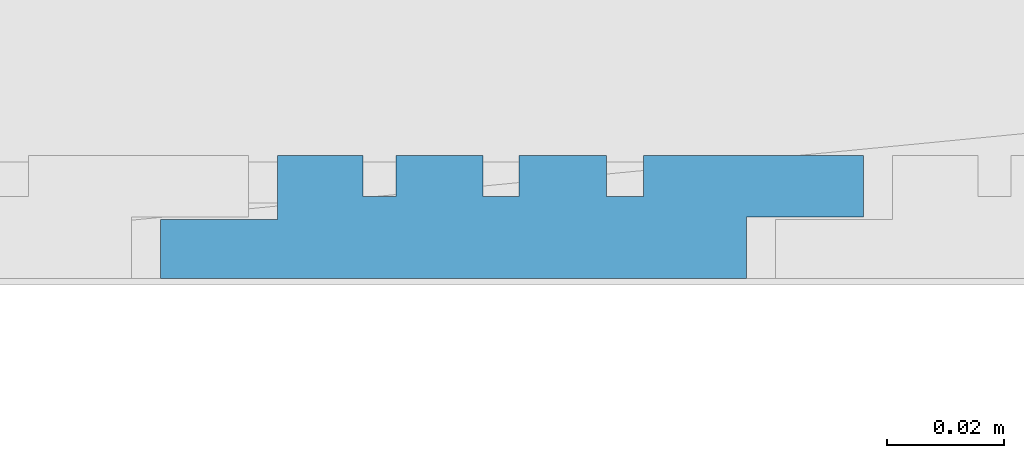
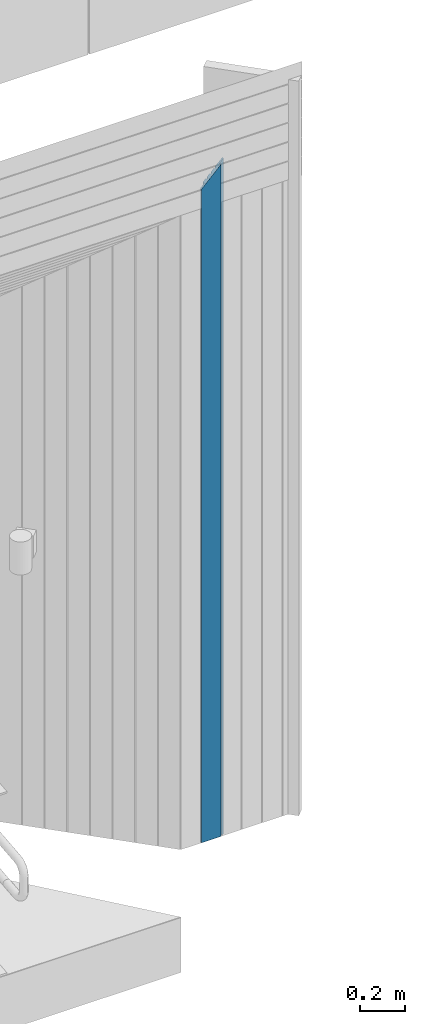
# One storey, part 102 of 418: 1 building element part, 1 element without a shape of its own.
"""IFC2X3 building model written with IfcOpenShell, lengths in millimetres."""

from ifc_helpers import new_model, entity, si_unit, converted_unit, derived_unit, money_unit, direction, frame, origin_with_axes, place, context, subcontext, project, spatial, polyline, outline, extrude, boolean, faceted_brep, material, type_object, element, aggregate, save


model = new_model("IFC2X3")

# Units and contexts
model_context = context("Model", 3, precision=0.01, world=origin_with_axes(), true_north=direction((0.0, 1.0)))
body_context = subcontext(model_context, "Body", "Model", "MODEL_VIEW")
ifc_project = project(units=[si_unit("LENGTHUNIT", "METRE", prefix="MILLI"), si_unit("AREAUNIT", "SQUARE_METRE"), si_unit("VOLUMEUNIT", "CUBIC_METRE"), converted_unit("PLANEANGLEUNIT", "DEGREE", entity("IfcPlaneAngleMeasure", 0.0174532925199), si_unit("PLANEANGLEUNIT", "RADIAN"), dimensions=[0, 0, 0, 0, 0, 0, 0]), si_unit("SOLIDANGLEUNIT", "STERADIAN"), money_unit("EUR"), converted_unit("TIMEUNIT", "Year", entity("IfcTimeMeasure", 31556926.0), si_unit("TIMEUNIT", "SECOND"), dimensions=[0, 0, 1, 0, 0, 0, 0]), si_unit("MASSUNIT", "GRAM", prefix="KILO"), si_unit("THERMODYNAMICTEMPERATUREUNIT", "DEGREE_CELSIUS"), si_unit("LUMINOUSINTENSITYUNIT", "LUMEN"), si_unit("ENERGYUNIT", "JOULE", prefix="MEGA"), derived_unit("THERMALCONDUCTANCEUNIT", [(si_unit("POWERUNIT", "WATT"), 1), (si_unit("LENGTHUNIT", "METRE"), -1), (si_unit("THERMODYNAMICTEMPERATUREUNIT", "KELVIN"), -1)]), derived_unit("SPECIFICHEATCAPACITYUNIT", [(si_unit("ENERGYUNIT", "JOULE"), 1), (si_unit("MASSUNIT", "GRAM", prefix="KILO"), -1), (si_unit("THERMODYNAMICTEMPERATUREUNIT", "KELVIN"), -1)]), derived_unit("MASSDENSITYUNIT", [(si_unit("MASSUNIT", "GRAM", prefix="KILO"), 1), (si_unit("VOLUMEUNIT", "CUBIC_METRE"), -1)])], contexts=[model_context])

# Site, building, storey
site_placement = place(None, origin_with_axes())
site = spatial("IfcSite", under=ifc_project, at=site_placement, Name="Paldiski mnt 245/1, Tallinn, Harjumaa", CompositionType="COMPLEX")
building_placement = place(site_placement, origin_with_axes())
building = spatial("IfcBuilding", under=site, at=building_placement, Name="RKAS Hoone üldnimetus (kasutust iseloomustav) -> IFC Project Manager -> SOLIBRI", CompositionType="ELEMENT")
storey_placement = place(building_placement, origin_with_axes())
storey = spatial("IfcBuildingStorey", under=building, at=storey_placement, Name="Esimene korrus", CompositionType="ELEMENT", Elevation=0.0)

# Proxy, building element part
building_element_proxy_type = type_object("IfcBuildingElementProxyType", Name="Laudis esiprofiil_01 21 x 622", PredefinedType="NOTDEFINED")
proxy_placement = place(storey_placement, frame((-37270.373884, -18705.5141429, 0.0), z_axis=(0.0, 0.0, 1.0), x_axis=(0.0, -1.0, 0.0)))
proxy = element("IfcBuildingElementProxy", 1, at=proxy_placement, inside=storey, type_object=building_element_proxy_type, Name="Varikatus")
ifc_material = material(Name="Laudis 5072 Honka 45 horisontaalne raastas")
building_element_part_placement = place(proxy_placement, origin_with_axes())
building_element_part = element("IfcBuildingElementPart", 2, at=building_element_part_placement, material=ifc_material, Name="Laudis 5072 Honka 45 horisontaalne raastas", context=body_context, shape_type="CSG", body=[
    boolean("DIFFERENCE", boolean("DIFFERENCE", boolean("DIFFERENCE", boolean("DIFFERENCE", boolean("DIFFERENCE", boolean("DIFFERENCE", extrude(outline(polyline([(3.20348192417e-08, -415.971430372), (-10.5000010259, -415.971430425), (-10.5000005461, -395.971429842), (-20.9999998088, -395.971430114), (-21.0000010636, -433.497524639), (-14.0000005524, -433.497525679), (-14.0000003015, -439.860022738), (-20.99999981, -439.860022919), (-20.9999998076, -454.79914009), (-14.0000002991, -454.799139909), (-14.0000007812, -460.926080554), (-21.0000002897, -460.926080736), (-21.0000013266, -475.754573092), (-14.0000008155, -475.754574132), (-14.0000015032, -481.395242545), (-21.0000010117, -481.395242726), (-21.0000007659, -495.971429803), (-10.000001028, -495.971430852), (-10.0000002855, -515.971430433), (-7.63172636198e-07, -515.971430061), (3.20348192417e-08, -415.971430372)])), origin_with_axes(), (0.0, 0.0, 1.0), 4086.15997799), faceted_brep([(-10.5000005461, -395.971429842, 3689.02857134), (-20.9999998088, -395.971430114, 3689.02857107), (-20.9999998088, -395.971430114, 4086.15997799), (-10.5000005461, -395.971429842, 4086.15997799), (-21.0000010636, -433.497524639, 3651.50247655), (-10.5000010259, -415.971430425, 3669.02857076), (3.20348192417e-08, -415.971430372, 3669.02857081), (-7.63172636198e-07, -515.971430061, 3569.02857112), (-10.0000002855, -515.971430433, 3569.02857075), (-10.000001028, -495.971430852, 3589.02857033), (-21.0000007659, -495.971429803, 3589.02857138), (-21.0000010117, -481.395242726, 3603.60475846), (-14.0000015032, -481.395242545, 3603.60475864), (-14.0000008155, -475.754574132, 3609.24542705), (-21.0000013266, -475.754573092, 3609.24542809), (-21.0000002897, -460.926080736, 3624.07392045), (-14.0000007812, -460.926080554, 3624.07392063), (-14.0000002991, -454.799139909, 3630.20086128), (-20.9999998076, -454.79914009, 3630.20086109), (-20.99999981, -439.860022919, 3645.13997827), (-14.0000003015, -439.860022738, 3645.13997845), (-14.0000005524, -433.497525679, 3651.50247551), (-21.0000010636, -433.497524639, 4086.15997799), (-7.63172636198e-07, -515.971430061, 4086.15997799), (3.20348192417e-08, -415.971430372, 4086.15997799), (-10.5000010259, -415.971430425, 4086.15997799), (-14.0000005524, -433.497525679, 4086.15997799), (-14.0000003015, -439.860022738, 4086.15997799), (-20.99999981, -439.860022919, 4086.15997799), (-20.9999998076, -454.79914009, 4086.15997799), (-14.0000002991, -454.799139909, 4086.15997799), (-14.0000007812, -460.926080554, 4086.15997799), (-21.0000002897, -460.926080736, 4086.15997799), (-21.0000013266, -475.754573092, 4086.15997799), (-14.0000008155, -475.754574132, 4086.15997799), (-14.0000015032, -481.395242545, 4086.15997799), (-21.0000010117, -481.395242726, 4086.15997799), (-21.0000007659, -495.971429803, 4086.15997799), (-10.000001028, -495.971430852, 4086.15997799), (-10.0000002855, -515.971430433, 4086.15997799)], [[[0, 1, 2, 3]], [[4, 1, 0, 5, 6, 7, 8, 9, 10, 11, 12, 13, 14, 15, 16, 17, 18, 19, 20, 21]], [[1, 4, 22, 2]], [[23, 24, 25, 3, 2, 22, 26, 27, 28, 29, 30, 31, 32, 33, 34, 35, 36, 37, 38, 39]], [[5, 0, 3, 25]], [[6, 5, 25, 24]], [[7, 6, 24, 23]], [[8, 7, 23, 39]], [[9, 8, 39, 38]], [[10, 9, 38, 37]], [[11, 10, 37, 36]], [[12, 11, 36, 35]], [[13, 12, 35, 34]], [[14, 13, 34, 33]], [[15, 14, 33, 32]], [[16, 15, 32, 31]], [[17, 16, 31, 30]], [[18, 17, 30, 29]], [[19, 18, 29, 28]], [[20, 19, 28, 27]], [[21, 20, 27, 26]], [[4, 21, 26, 22]]])), faceted_brep([(-10.5000005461, -500.971429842, 3584.02857134), (-20.9999998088, -500.971430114, 3584.02857107), (-20.9999998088, -500.971430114, 4086.15997799), (-10.5000005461, -500.971429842, 4086.15997799), (-21.0000010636, -538.497524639, 3546.50247655), (-10.5000010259, -520.971430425, 3564.02857076), (3.20348192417e-08, -520.971430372, 3564.02857081), (-7.63172636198e-07, -620.971430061, 3464.02857112), (-10.0000002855, -620.971430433, 3464.02857075), (-10.000001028, -600.971430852, 3484.02857033), (-21.0000007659, -600.971429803, 3484.02857138), (-21.0000010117, -586.395242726, 3498.60475846), (-14.0000015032, -586.395242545, 3498.60475864), (-14.0000008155, -580.754574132, 3504.24542705), (-21.0000013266, -580.754573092, 3504.24542809), (-21.0000002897, -565.926080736, 3519.07392045), (-14.0000007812, -565.926080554, 3519.07392063), (-14.0000002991, -559.799139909, 3525.20086128), (-20.9999998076, -559.79914009, 3525.20086109), (-20.99999981, -544.860022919, 3540.13997827), (-14.0000003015, -544.860022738, 3540.13997845), (-14.0000005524, -538.497525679, 3546.50247551), (-21.0000010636, -538.497524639, 4086.15997799), (-7.63172636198e-07, -620.971430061, 4086.15997799), (3.20348192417e-08, -520.971430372, 4086.15997799), (-10.5000010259, -520.971430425, 4086.15997799), (-14.0000005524, -538.497525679, 4086.15997799), (-14.0000003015, -544.860022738, 4086.15997799), (-20.99999981, -544.860022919, 4086.15997799), (-20.9999998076, -559.79914009, 4086.15997799), (-14.0000002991, -559.799139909, 4086.15997799), (-14.0000007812, -565.926080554, 4086.15997799), (-21.0000002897, -565.926080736, 4086.15997799), (-21.0000013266, -580.754573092, 4086.15997799), (-14.0000008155, -580.754574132, 4086.15997799), (-14.0000015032, -586.395242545, 4086.15997799), (-21.0000010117, -586.395242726, 4086.15997799), (-21.0000007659, -600.971429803, 4086.15997799), (-10.000001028, -600.971430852, 4086.15997799), (-10.0000002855, -620.971430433, 4086.15997799)], [[[0, 1, 2, 3]], [[4, 1, 0, 5, 6, 7, 8, 9, 10, 11, 12, 13, 14, 15, 16, 17, 18, 19, 20, 21]], [[1, 4, 22, 2]], [[23, 24, 25, 3, 2, 22, 26, 27, 28, 29, 30, 31, 32, 33, 34, 35, 36, 37, 38, 39]], [[5, 0, 3, 25]], [[6, 5, 25, 24]], [[7, 6, 24, 23]], [[8, 7, 23, 39]], [[9, 8, 39, 38]], [[10, 9, 38, 37]], [[11, 10, 37, 36]], [[12, 11, 36, 35]], [[13, 12, 35, 34]], [[14, 13, 34, 33]], [[15, 14, 33, 32]], [[16, 15, 32, 31]], [[17, 16, 31, 30]], [[18, 17, 30, 29]], [[19, 18, 29, 28]], [[20, 19, 28, 27]], [[21, 20, 27, 26]], [[4, 21, 26, 22]]])), faceted_brep([(-10.5000005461, -185.971429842, 3899.02857134), (-20.9999998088, -185.971430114, 3899.02857107), (-20.9999998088, -185.971430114, 4086.15997799), (-10.5000005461, -185.971429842, 4086.15997799), (-21.0000010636, -223.497524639, 3861.50247655), (-10.5000010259, -205.971430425, 3879.02857076), (3.20348192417e-08, -205.971430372, 3879.02857081), (-7.63172636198e-07, -305.971430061, 3779.02857112), (-10.0000002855, -305.971430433, 3779.02857075), (-10.000001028, -285.971430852, 3799.02857033), (-21.0000007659, -285.971429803, 3799.02857138), (-21.0000010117, -271.395242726, 3813.60475846), (-14.0000015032, -271.395242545, 3813.60475864), (-14.0000008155, -265.754574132, 3819.24542705), (-21.0000013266, -265.754573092, 3819.24542809), (-21.0000002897, -250.926080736, 3834.07392045), (-14.0000007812, -250.926080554, 3834.07392063), (-14.0000002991, -244.799139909, 3840.20086128), (-20.9999998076, -244.79914009, 3840.20086109), (-20.99999981, -229.860022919, 3855.13997827), (-14.0000003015, -229.860022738, 3855.13997845), (-14.0000005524, -223.497525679, 3861.50247551), (-21.0000010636, -223.497524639, 4086.15997799), (-7.63172636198e-07, -305.971430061, 4086.15997799), (3.20348192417e-08, -205.971430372, 4086.15997799), (-10.5000010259, -205.971430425, 4086.15997799), (-14.0000005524, -223.497525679, 4086.15997799), (-14.0000003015, -229.860022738, 4086.15997799), (-20.99999981, -229.860022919, 4086.15997799), (-20.9999998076, -244.79914009, 4086.15997799), (-14.0000002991, -244.799139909, 4086.15997799), (-14.0000007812, -250.926080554, 4086.15997799), (-21.0000002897, -250.926080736, 4086.15997799), (-21.0000013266, -265.754573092, 4086.15997799), (-14.0000008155, -265.754574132, 4086.15997799), (-14.0000015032, -271.395242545, 4086.15997799), (-21.0000010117, -271.395242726, 4086.15997799), (-21.0000007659, -285.971429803, 4086.15997799), (-10.000001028, -285.971430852, 4086.15997799), (-10.0000002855, -305.971430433, 4086.15997799)], [[[0, 1, 2, 3]], [[4, 1, 0, 5, 6, 7, 8, 9, 10, 11, 12, 13, 14, 15, 16, 17, 18, 19, 20, 21]], [[1, 4, 22, 2]], [[23, 24, 25, 3, 2, 22, 26, 27, 28, 29, 30, 31, 32, 33, 34, 35, 36, 37, 38, 39]], [[5, 0, 3, 25]], [[6, 5, 25, 24]], [[7, 6, 24, 23]], [[8, 7, 23, 39]], [[9, 8, 39, 38]], [[10, 9, 38, 37]], [[11, 10, 37, 36]], [[12, 11, 36, 35]], [[13, 12, 35, 34]], [[14, 13, 34, 33]], [[15, 14, 33, 32]], [[16, 15, 32, 31]], [[17, 16, 31, 30]], [[18, 17, 30, 29]], [[19, 18, 29, 28]], [[20, 19, 28, 27]], [[21, 20, 27, 26]], [[4, 21, 26, 22]]])), faceted_brep([(-10.5000005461, -290.971429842, 3794.02857134), (-20.9999998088, -290.971430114, 3794.02857107), (-20.9999998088, -290.971430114, 4086.15997799), (-10.5000005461, -290.971429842, 4086.15997799), (-21.0000010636, -328.497524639, 3756.50247655), (-10.5000010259, -310.971430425, 3774.02857076), (3.20348192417e-08, -310.971430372, 3774.02857081), (-7.63172636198e-07, -410.971430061, 3674.02857112), (-10.0000002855, -410.971430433, 3674.02857075), (-10.000001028, -390.971430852, 3694.02857033), (-21.0000007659, -390.971429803, 3694.02857138), (-21.0000010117, -376.395242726, 3708.60475846), (-14.0000015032, -376.395242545, 3708.60475864), (-14.0000008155, -370.754574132, 3714.24542705), (-21.0000013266, -370.754573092, 3714.24542809), (-21.0000002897, -355.926080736, 3729.07392045), (-14.0000007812, -355.926080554, 3729.07392063), (-14.0000002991, -349.799139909, 3735.20086128), (-20.9999998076, -349.79914009, 3735.20086109), (-20.99999981, -334.860022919, 3750.13997827), (-14.0000003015, -334.860022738, 3750.13997845), (-14.0000005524, -328.497525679, 3756.50247551), (-21.0000010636, -328.497524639, 4086.15997799), (-7.63172636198e-07, -410.971430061, 4086.15997799), (3.20348192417e-08, -310.971430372, 4086.15997799), (-10.5000010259, -310.971430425, 4086.15997799), (-14.0000005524, -328.497525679, 4086.15997799), (-14.0000003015, -334.860022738, 4086.15997799), (-20.99999981, -334.860022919, 4086.15997799), (-20.9999998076, -349.79914009, 4086.15997799), (-14.0000002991, -349.799139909, 4086.15997799), (-14.0000007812, -355.926080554, 4086.15997799), (-21.0000002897, -355.926080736, 4086.15997799), (-21.0000013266, -370.754573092, 4086.15997799), (-14.0000008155, -370.754574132, 4086.15997799), (-14.0000015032, -376.395242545, 4086.15997799), (-21.0000010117, -376.395242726, 4086.15997799), (-21.0000007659, -390.971429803, 4086.15997799), (-10.000001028, -390.971430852, 4086.15997799), (-10.0000002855, -410.971430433, 4086.15997799)], [[[0, 1, 2, 3]], [[4, 1, 0, 5, 6, 7, 8, 9, 10, 11, 12, 13, 14, 15, 16, 17, 18, 19, 20, 21]], [[1, 4, 22, 2]], [[23, 24, 25, 3, 2, 22, 26, 27, 28, 29, 30, 31, 32, 33, 34, 35, 36, 37, 38, 39]], [[5, 0, 3, 25]], [[6, 5, 25, 24]], [[7, 6, 24, 23]], [[8, 7, 23, 39]], [[9, 8, 39, 38]], [[10, 9, 38, 37]], [[11, 10, 37, 36]], [[12, 11, 36, 35]], [[13, 12, 35, 34]], [[14, 13, 34, 33]], [[15, 14, 33, 32]], [[16, 15, 32, 31]], [[17, 16, 31, 30]], [[18, 17, 30, 29]], [[19, 18, 29, 28]], [[20, 19, 28, 27]], [[21, 20, 27, 26]], [[4, 21, 26, 22]]])), faceted_brep([(-1.4387921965e-06, -95.9714304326, 3989.02857075), (8.28137558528e-09, 1.13997680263, 4086.13997799), (8.28137558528e-09, 1.13997680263, 4086.15997799), (-1.4387921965e-06, -95.9714304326, 4086.15997799), (-14.0000008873, -12.860024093, 4072.13997709), (-10.0000000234, -95.9714304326, 3989.02857075), (-10.0000014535, -75.9714304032, 4009.02857078), (-21.0000013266, -75.9714304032, 4009.02857078), (-21.0000013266, -61.3952431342, 4023.60475805), (-14.0000008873, -61.3952431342, 4023.60475805), (-14.0000008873, -55.7545748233, 4029.24542636), (-21.0000013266, -55.7545733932, 4029.24542779), (-20.9999998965, -40.9260801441, 4044.07392104), (-14.0000008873, -40.9260801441, 4044.07392104), (-14.0000008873, -34.7991393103, 4050.20086187), (-20.9999998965, -34.7991407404, 4050.20086044), (-20.9999998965, -19.8600231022, 4065.13997808), (-14.0000008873, -19.8600231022, 4065.13997808), (-14.0000008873, -12.860024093, 4086.15997799), (-20.9999998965, -40.9260801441, 4086.15997799), (-21.0000013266, -55.7545733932, 4086.15997799), (-14.0000008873, -55.7545748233, 4086.15997799), (-14.0000008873, -61.3952431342, 4086.15997799), (-21.0000013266, -61.3952431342, 4086.15997799), (-21.0000013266, -75.9714304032, 4086.15997799), (-10.0000014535, -75.9714304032, 4086.15997799), (-10.0000000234, -95.9714304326, 4086.15997799), (-14.0000008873, -19.8600231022, 4086.15997799), (-20.9999998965, -19.8600231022, 4086.15997799), (-20.9999998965, -34.7991407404, 4086.15997799), (-14.0000008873, -34.7991393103, 4086.15997799), (-14.0000008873, -40.9260801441, 4086.15997799)], [[[0, 1, 2, 3]], [[4, 1, 0, 5, 6, 7, 8, 9, 10, 11, 12, 13, 14, 15, 16, 17]], [[1, 4, 18, 2]], [[19, 20, 21, 22, 23, 24, 25, 26, 3, 2, 18, 27, 28, 29, 30, 31]], [[5, 0, 3, 26]], [[6, 5, 26, 25]], [[7, 6, 25, 24]], [[8, 7, 24, 23]], [[9, 8, 23, 22]], [[10, 9, 22, 21]], [[11, 10, 21, 20]], [[12, 11, 20, 19]], [[13, 12, 19, 31]], [[14, 13, 31, 30]], [[15, 14, 30, 29]], [[16, 15, 29, 28]], [[17, 16, 28, 27]], [[4, 17, 27, 18]]])), faceted_brep([(-10.5000005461, -80.9714298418, 4004.02857134), (-20.9999998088, -80.9714301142, 4004.02857107), (-20.9999998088, -80.9714301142, 4086.15997799), (-10.5000005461, -80.9714298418, 4086.15997799), (-21.0000010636, -118.497524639, 3966.50247655), (-10.5000010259, -100.971430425, 3984.02857076), (3.20348192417e-08, -100.971430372, 3984.02857081), (-7.63172636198e-07, -200.971430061, 3884.02857112), (-10.0000002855, -200.971430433, 3884.02857075), (-10.000001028, -180.971430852, 3904.02857033), (-21.0000007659, -180.971429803, 3904.02857138), (-21.0000010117, -166.395242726, 3918.60475846), (-14.0000015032, -166.395242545, 3918.60475864), (-14.0000008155, -160.754574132, 3924.24542705), (-21.0000013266, -160.754573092, 3924.24542809), (-21.0000002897, -145.926080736, 3939.07392045), (-14.0000007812, -145.926080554, 3939.07392063), (-14.0000002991, -139.799139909, 3945.20086128), (-20.9999998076, -139.79914009, 3945.20086109), (-20.99999981, -124.860022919, 3960.13997827), (-14.0000003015, -124.860022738, 3960.13997845), (-14.0000005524, -118.497525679, 3966.50247551), (-21.0000010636, -118.497524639, 4086.15997799), (-7.63172636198e-07, -200.971430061, 4086.15997799), (3.20348192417e-08, -100.971430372, 4086.15997799), (-10.5000010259, -100.971430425, 4086.15997799), (-14.0000005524, -118.497525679, 4086.15997799), (-14.0000003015, -124.860022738, 4086.15997799), (-20.99999981, -124.860022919, 4086.15997799), (-20.9999998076, -139.79914009, 4086.15997799), (-14.0000002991, -139.799139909, 4086.15997799), (-14.0000007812, -145.926080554, 4086.15997799), (-21.0000002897, -145.926080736, 4086.15997799), (-21.0000013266, -160.754573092, 4086.15997799), (-14.0000008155, -160.754574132, 4086.15997799), (-14.0000015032, -166.395242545, 4086.15997799), (-21.0000010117, -166.395242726, 4086.15997799), (-21.0000007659, -180.971429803, 4086.15997799), (-10.000001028, -180.971430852, 4086.15997799), (-10.0000002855, -200.971430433, 4086.15997799)], [[[0, 1, 2, 3]], [[4, 1, 0, 5, 6, 7, 8, 9, 10, 11, 12, 13, 14, 15, 16, 17, 18, 19, 20, 21]], [[1, 4, 22, 2]], [[23, 24, 25, 3, 2, 22, 26, 27, 28, 29, 30, 31, 32, 33, 34, 35, 36, 37, 38, 39]], [[5, 0, 3, 25]], [[6, 5, 25, 24]], [[7, 6, 24, 23]], [[8, 7, 23, 39]], [[9, 8, 39, 38]], [[10, 9, 38, 37]], [[11, 10, 37, 36]], [[12, 11, 36, 35]], [[13, 12, 35, 34]], [[14, 13, 34, 33]], [[15, 14, 33, 32]], [[16, 15, 32, 31]], [[17, 16, 31, 30]], [[18, 17, 30, 29]], [[19, 18, 29, 28]], [[20, 19, 28, 27]], [[21, 20, 27, 26]], [[4, 21, 26, 22]]])),
])
aggregate(proxy, [building_element_part])

save(model, "model.ifc")
